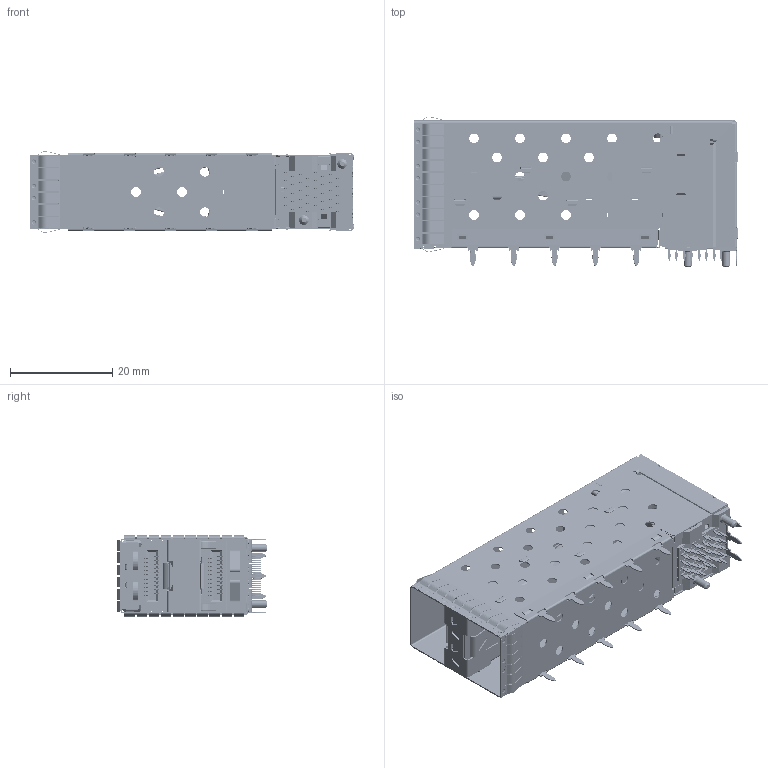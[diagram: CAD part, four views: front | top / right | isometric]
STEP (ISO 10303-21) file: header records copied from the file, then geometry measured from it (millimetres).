
FILE_DESCRIPTION (( 'STEP AP214' ), '1' );
FILE_NAME ('SSA0-0001310400-0000-X.STEP', '2021-06-11T06:01:01', ( '' ), ( '' ), 'SwSTEP 2.0', 'SolidWorks 2012', '' );
FILE_SCHEMA (( 'AUTOMOTIVE_DESIGN' ));
Products named in the file (42): SSA0-S110-1_3.05-Legs13-SFP+ hole ass''y; SSA0-M210_SSA0-M21000XX 客戶3D-Type A-XIN; SSD0-P130_for 4lightpipe-LED高度0.6 max(亮面+套筒; SSA0-M210-P; SSA0-0001310400-0000-X; SSA0-P110; SSA0-C110_SSA0-C11002XX 客戶3D-Type C-XIN; SSA0-M210_SSA0-M21001XX 客戶3D-Type B-XIN; SSA0-M220-P; SSA0-M220_SSA0-M22000XX 客戶3D-Type A-GND; SSA0-C110_SSA0-C11000XX 客戶3D-Type A-GND; SBA0-S130_組裝; SSA0-S120_SFP+; SSA0-C110_SSA0-C11003XX 客戶3D-Type D-XIN; SS20-S150_2*N Side Spring Ass''y; SSA0-M220_SSA0-M22001XX 客戶3D-Type B-GND; SSA0-M210-P_C TYPE; SSD0-P150; SSA0-M130 Conn+Lightpipe Ass''y-1_客戶3D  DUDU; SS20-S150_1x1-Top Spring Ass''y; SBD0-S140_w\UDUD lightpipe- ass''y; SSD0-P140_for 4Lightpipe-LED高度0.6 max(亮面+套筒); SSA0-M220-P_D TYPE; SSA0-C110_SSA0-C11001XX 客戶3D-Type B-GND
Assembly tree (43 placements, depth 4):
  SSA0-0001310400-0000-X
    SSA0-S110-1_3.05-Legs13-SFP+ hole ass''y
    SSA0-S120_SFP+
    SS20-S150_2*N Side Spring Ass''y  x2
    SS20-S150_1x1-Top Spring Ass''y  x2
    SBD0-S140_w\UDUD lightpipe- ass''y
    SSA0-M130 Conn+Lightpipe Ass''y-1_客戶3D  DUDU
      SSA0-P110
      SBA0-S130_組裝
      SSA0-M220_SSA0-M22000XX 客戶3D-Type A-GND
        SSA0-M220-P
        SSA0-C110_SSA0-C11000XX 客戶3D-Type A-GND
      SSA0-M210_SSA0-M21001XX 客戶3D-Type B-XIN
        SSA0-M210-P
        SSA0-C110_SSA0-C11003XX 客戶3D-Type D-XIN
      SSA0-M210_SSA0-M21000XX 客戶3D-Type A-XIN
        SSA0-M210-P_C TYPE
        SSA0-C110_SSA0-C11002XX 客戶3D-Type C-XIN
      SSA0-M220_SSA0-M22001XX 客戶3D-Type B-GND
        SSA0-M220-P_D TYPE
        SSA0-C110_SSA0-C11001XX 客戶3D-Type B-GND
      SSA0-M210_SSA0-M21000XX 客戶3D-Type A-XIN
        SSA0-M210-P_C TYPE
        SSA0-C110_SSA0-C11002XX 客戶3D-Type C-XIN
      SSA0-M210_SSA0-M21001XX 客戶3D-Type B-XIN
        SSA0-M210-P
        SSA0-C110_SSA0-C11003XX 客戶3D-Type D-XIN
      SSA0-M220_SSA0-M22000XX 客戶3D-Type A-GND
        SSA0-M220-P
        SSA0-C110_SSA0-C11000XX 客戶3D-Type A-GND
      SSA0-M210_SSA0-M21001XX 客戶3D-Type B-XIN
        SSA0-M210-P
        SSA0-C110_SSA0-C11003XX 客戶3D-Type D-XIN
      SSA0-M210_SSA0-M21000XX 客戶3D-Type A-XIN
        SSA0-M210-P_C TYPE
        SSA0-C110_SSA0-C11002XX 客戶3D-Type C-XIN
      SSA0-M220_SSA0-M22001XX 客戶3D-Type B-GND
        SSA0-M220-P_D TYPE
        SSA0-C110_SSA0-C11001XX 客戶3D-Type B-GND
      SSD0-P130_for 4lightpipe-LED高度0.6 max(亮面+套筒
      SSD0-P140_for 4Lightpipe-LED高度0.6 max(亮面+套筒)
      SSD0-P150
Bounding box: 63.5 x 29.5 x 16 mm (x, y, z)
Volume: 6179.3 mm3; surface area: 26577.5 mm2
Topology: 132 solids, 132 shells, 9549 faces, 25512 edges, 16166 vertices
Faces by surface type: plane 6264, cylinder 2877, torus 152, bspline 140, sphere 88, cone 28
Entity records: 285060 total; most frequent: CARTESIAN_POINT 55828, ORIENTED_EDGE 47968, DIRECTION 46636, EDGE_CURVE 23984, LINE 17924, VECTOR 17924, VERTEX_POINT 15240, AXIS2_PLACEMENT_3D 14356
